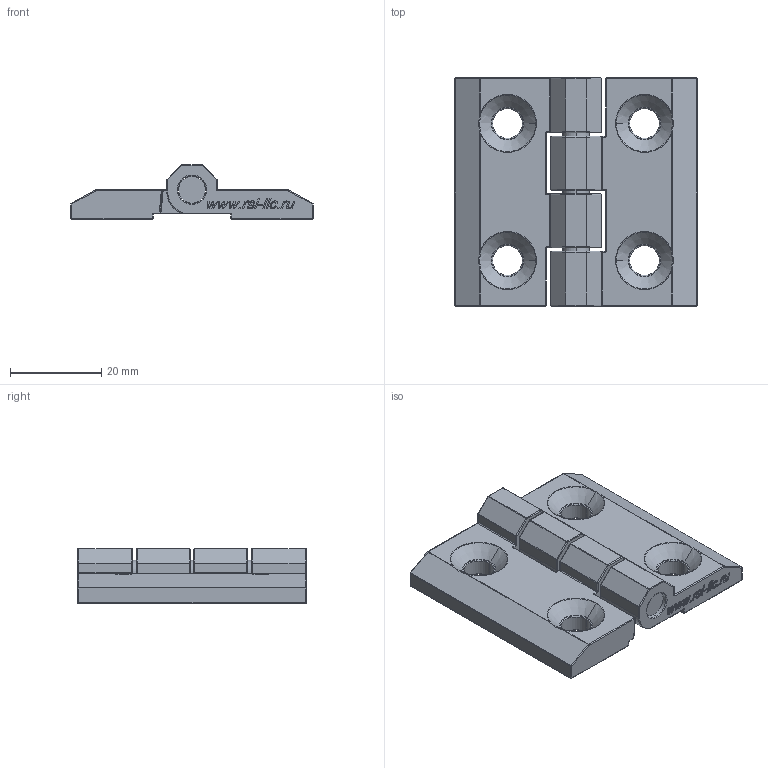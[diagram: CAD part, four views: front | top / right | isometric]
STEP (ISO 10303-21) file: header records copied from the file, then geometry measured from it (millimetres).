
FILE_DESCRIPTION (( 'STEP AP214' ), '1' );
FILE_NAME ('3025.STEP', '2020-10-09T11:10:35', ( '' ), ( '' ), 'SwSTEP 2.0', 'SolidWorks 2018', '' );
FILE_SCHEMA (( 'AUTOMOTIVE_DESIGN' ));
Length unit declared in the file: millimetre
Products named in the file (3): 3025-03; 3025-01; 3025
Assembly tree (3 placements, depth 2):
  3025
    3025-01  x2
    3025-03
Bounding box: 53 x 50.2 x 12 mm (x, y, z)
Volume: 12551.3 mm3; surface area: 10564.3 mm2
Topology: 3 solids, 3 shells, 864 faces, 2102 edges, 1198 vertices
Faces by surface type: plane 318, cylinder 214, bspline 124, torus 96, sphere 96, cone 16
Entity records: 16543 total; most frequent: CARTESIAN_POINT 5089, ORIENTED_EDGE 2026, DIRECTION 1968, EDGE_CURVE 1013, AXIS2_PLACEMENT_3D 706, VERTEX_POINT 601, LINE 556, VECTOR 556
